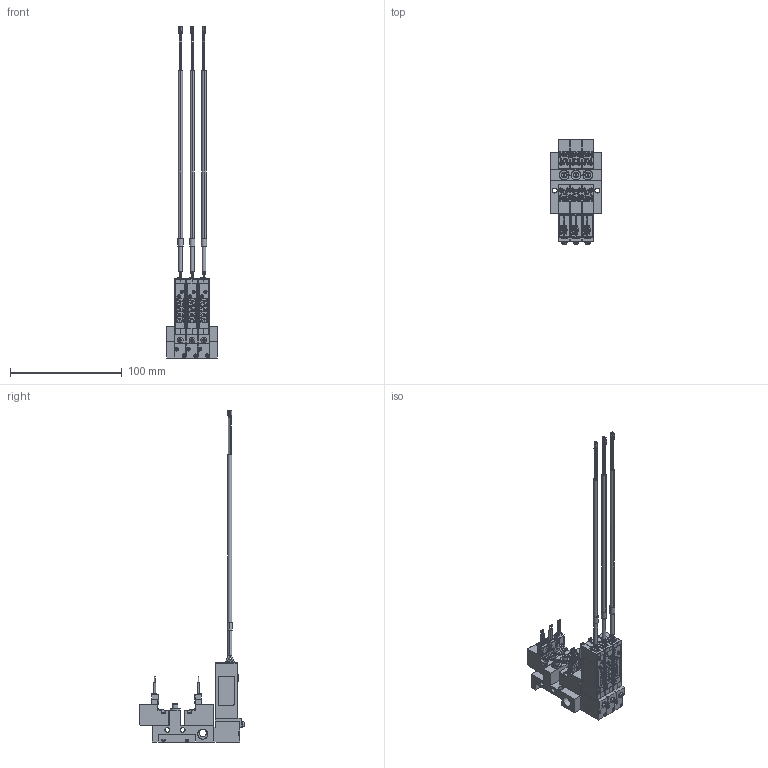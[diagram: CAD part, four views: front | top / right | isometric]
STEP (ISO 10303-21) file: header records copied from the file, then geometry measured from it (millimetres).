
FILE_DESCRIPTION(('STEP AP203'),'1');
FILE_NAME('1-NO(NC)-4EZ-M03-V9.stp','2025-05-08T08:47:18',(' '),(' '),'Spatial InterOp 3D',' ',' ');
FILE_SCHEMA(('CONFIG_CONTROL_DESIGN'));
Length unit declared in the file: millimetre
Products named in the file (101): PV1※1-NO(NC)-4EZ-M03-V9; BODY; PLATE; NEEDLE; BOLT; SOLENOID VALVE VOLTAGE PV; 42; 45; 48; 51; BRAKET(MPS-V9  PV용)NEW; BRAKET; MPS-V9AC.ics; __1; MPS-V9AC; MSBR-29_1; MSBR-28_1; MSBR-27_1; MSBR-26_1; MSBR-25_1; MSBR-24_1; MSBR-21_1; MSBR-7_1; MSBR-4_1; MSBR-1_1
Assembly tree (100 placements, depth 5):
  PV1※1-NO(NC)-4EZ-M03-V9
    BODY
    PLATE
    PLATE
    NEEDLE
    BOLT
    BOLT
    BOLT
    BOLT
    BOLT
    BOLT
    SOLENOID VALVE VOLTAGE PV
      42
      45
      48
      51
    SOLENOID VALVE VOLTAGE PV
      42
      45
      48
      51
    SOLENOID VALVE VOLTAGE PV
      42
      45
      48
      51
    NEEDLE
    SOLENOID VALVE VOLTAGE PV
      42
      45
      48
      51
    SOLENOID VALVE VOLTAGE PV
      42
      45
      48
      51
    NEEDLE
    SOLENOID VALVE VOLTAGE PV
      42
      45
      48
      51
    PLATE
    BOLT
    BOLT
    BOLT
    BRAKET(MPS-V9  PV용)NEW
      BRAKET
      BOLT
      BOLT
      MPS-V9AC.ics
        __1
        MPS-V9AC
          MSBR-29_1
          MSBR-28_1
          MSBR-27_1
          MSBR-26_1
          MSBR-25_1
          MSBR-24_1
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Bounding box: 45 x 94.29 x 297.25 mm (x, y, z)
Volume: 85328.3 mm3; surface area: 76700.7 mm2
Topology: 82 solids, 109 shells, 3928 faces, 10766 edges, 7295 vertices
Faces by surface type: plane 2998, cylinder 697, torus 99, bspline 57, cone 35, extrusion 30, sphere 12
Full cylindrical faces by diameter (mm): 2 x9, 2.3 x6, 2.5 x3, 3 x15, 4.2 x8, 4.5 x2, 5 x6, 6.5 x1, 8.797 x2, 9 x3
Entity records: 130794 total; most frequent: CARTESIAN_POINT 25082, ORIENTED_EDGE 20912, DIRECTION 20447, EDGE_CURVE 10570, VECTOR 7929, LINE 7899, VERTEX_POINT 7234, AXIS2_PLACEMENT_3D 6259
